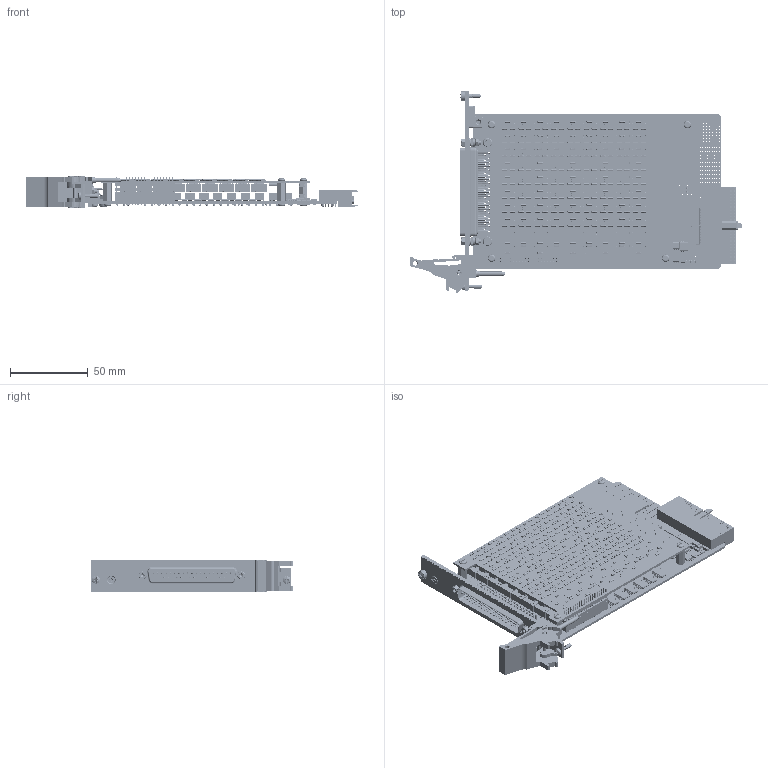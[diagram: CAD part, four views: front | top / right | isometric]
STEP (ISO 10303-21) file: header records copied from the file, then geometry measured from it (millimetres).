
FILE_DESCRIPTION (( 'STEP AP214' ), '1' );
FILE_NAME ('40-297A-032 PXI High Density Precision Resistor Module 9-Channel 2 Ohm to 26.7 kOhm 0.5 Ohm Resolution.step', '2024-02-26T12:19:35', ( '' ), ( '' ), 'SwSTEP 2.0', 'SolidWorks 2023', '' );
FILE_SCHEMA (( 'AUTOMOTIVE_DESIGN' ));
Length unit declared in the file: millimetre
Products named in the file (101): A-PC-1384-X32-# Programmable Resistor Daughter; C-RS-884 RES 2K4 0204 0.25W 0.1% 15PPM; C-CN-1453-Short Pins 2 x 15 Way Header ST M SM; C-IC-226  16 Bit Driver IC; A-PC-1383-X32 Programmable Resistor Mother; C-RS-873 RES 0204 18R 0.25W 1% 50PPM; C-CP-239  Power Line Filter; C-BK-026 Bush Front Panel Mounting; C-RS-866 RES 0204 1R8 0.25W 1% 50PPM; C-IC-489 F-RAM Semiconductor Serial-I2C FRAM Memory 512kbit 2-3.6 V 8-Pin SOIC; C-CN-107-PIN; C-FX-165 CPCI Ejector Handle; C-CP-139 CAP 4.7UF 1206 16V X7R 10%; C-RS-254 Res  0603; C-FP-399 PXI 3U 1-slot 37Way D PCB Mounting; C-FX-165 Handle Pin; C-RS-890 RES 68K 0204 0.25W 0.1% 15PPM; C-CN-073-SCREW 4-40 UNC Screwlock_5mm Hexagonal spacer; C-RS-872 RES 15R 0204 0.25W 1% 50PPM; C-RS-878 RES 430R 0204 0.25W 0.1% 15PPM; C-CN-859 D Connector Mounting Bracket; C-CN-073-NUT M2-5 Screwlock nut_C-FX-028 M2,5 Nut; C-CN-107-BODY; C-CP-130 CAP 1uF CERAMIC SMT 0603; C-CN-073 WASHER plain; C-RS-147 Res 100R 0603 1-16W 1% 100PPM; C-CP-034; C-FX-375 M3 Hex Nut_C-FX-375 M3 Nut; L-FP-399-# PXI FP Label; C-IC-598 64Mbit Flash Memory 8-Pin SOIC; C-RS-152 Res 10K 0603 1-16W 1% 300PPM; C-RS-917 RES 390K 0204 0.25W 1% 50PPM; C-FX-432 M2.5 x 6mm Slotted Screw with Vibra Fix Solution; A-PC-1384-X32 Programmable Resistor Daughter; C-RS-887 RES 16K 0204 0.25W 0.1% 15PPM; L-FP-399 PXI 3U 1SLT 37W D FP Label Assy; C-RS-876 RES 130R 0204 0.25W 0.1% 15PPM; C-FX-101 Screw, M2.5 x 6, Pan Hd, Pozi, Steel, BZP; C-CN-073-SPRING WASHER; C-RS-871 RES 10R 0204 0.25W 1% 50PPM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
Assembly tree (997 placements, depth 5):
  40-297A-032 PXI High Density Precision Resistor Module 9-Channel 2 Ohm to 26.7 kOhm 0.5 Ohm Resolution
    A-PC-1383-X32 Programmable Resistor Mother
      A-PC-1383-X32-# Programmable Resistor Mother
        C-PC-1383 Programmable Resistor Motherboard
        C-CN-1071
          C-CN-107-BODY
          C-CN-107-PIN  x8
        C-CN-1579 2 X 19 WAY HEADER ST F TH
        C-CN-1462 2 x 15 WAY HEADER ST F SM
        C-RS-190 Res 0R0 SIZE 0603 SMT
        C-CP-239  Power Line Filter  x4
        C-CP-175 CAP 22uF 1206 25V X5R 10%  x2
        C-CP-141 CAP 10UF 1206 35V X5R 10%  x7
        C-RL-260 Signal Relay Surface Mount_No Text  x87
        C-IC-226  16 Bit Driver IC  x6
        C-RS-254 Res  0603  x6
        C-SC-056 80V 250mA (DC) SOD323 Diode  x90
        C-CP-034  x22
        C-RS-152 Res 10K 0603 1-16W 1% 300PPM  x2
        C-RS-147 Res 100R 0603 1-16W 1% 100PPM
        C-CP-099 CAP 0.1uF 16V 0402 SMT  x12
        C-IC-442 VSSOP 8PIN SD
        C-IC-458 LDO VOLTAGE REGULATOR 1.2V SOT
        C-IC-546 24 BIT BUS SWITCH 56PIN TVSOP  x2
        C-IC-369 FPGA 17000 Cells 65nm Technology 1.2V 256-Pin FTBGA
        C-RS-148 Res 1K 0603 1-16W 1% 100PPM  x2
        C-RS-659 RES NW 4K7 4RES 8PINS SMT1206  x4
        C-RS-521 Res 120R (0603) 1-16W 1% 100pp
        C-SC-146 Dual Transistor SOT-14  x2
        C-MS-803 BEAD 120R 0603 2A 0R05 25%  x2
        C-CP-124 CAP 10nF CERAMIC SMT 0402  x29
        C-CP-130 CAP 1uF CERAMIC SMT 0603  x2
        C-CP-139 CAP 4.7UF 1206 16V X7R 10%  x2
        C-CN-355 Compact pci connector 3_Render
        C-IC-489 F-RAM Semiconductor Serial-I2C FRAM Memory 512kbit 2-3.6 V 8-Pin SOIC  x2
        C-IC-425 SOICN 8PIN SD
        C-IC-598 64Mbit Flash Memory 8-Pin SOIC
        C-RS-862 0204 Surface Mount  x28
        C-RS-865 RES 0204 1R 0.25W 1% 50PPM  x20
        C-RS-866 RES 0204 1R8 0.25W 1% 50PPM  x10
        C-RS-867 RES 0204 2R2 0.25W 1% 50PPM  x10
        C-RS-868 RES 0204 3R3 0.25W 1% 50PPM  x5
        C-RS-869 RES 0204 4R7 0.25W 1% 50PPM  x5
        C-RS-870 RES 0204 6R8 0.25W 1% 50PPM  x5
        C-RS-871 RES 10R 0204 0.25W 1% 50PPM  x5
        C-RS-872 RES 15R 0204 0.25W 1% 50PPM  x5
        C-RS-873 RES 0204 18R 0.25W 1% 50PPM  x5
        C-RS-874 RES 0204 33R 0.25W 1% 50PPM  x10
        C-RS-875 RES 62R 0204 0.25W 0.1% 15PPM  x8
        C-RS-876 RES 130R 0204 0.25W 0.1% 15PPM  x8
        C-RS-877 RES 240R 0204 0.25W 0.1% 15PPM  x13
        C-RS-878 RES 430R 0204 0.25W 0.1% 15PPM  x5
        C-RS-879 RES 470R 0204 0.25W 0.1% 15PPM  x8
        C-RS-880 RES 680R 0204 0.25W 0.1% 15PPM  x5
        C-RS-881 RES 910R 0204 0.25W 0.1% 15PPM  x8
        C-RS-882 RES 1K8 0204 0.25W 0.1% 15PPM  x8
        C-RS-884 RES 2K4 0204 0.25W 0.1% 15PPM  x8
        C-RS-885 RES 3K9 0204 0.25W 0.1% 15PPM  x8
        C-RS-911 RES 6K8 0204 0.25W 0.1% 15PPM  x8
        C-RS-886 RES 0204  x4
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Bounding box: 213.7 x 129.63 x 20 mm (x, y, z)
Volume: 124311.1 mm3; surface area: 166631.2 mm2
Topology: 999 solids, 1026 shells, 54388 faces, 133217 edges, 83642 vertices
Faces by surface type: plane 33397, cylinder 15416, torus 2565, sphere 1452, cone 1397, bspline 161
Entity records: 656734 total; most frequent: DIRECTION 89580, CARTESIAN_POINT 88690, ORIENTED_EDGE 81408, EDGE_CURVE 40706, AXIS2_PLACEMENT_3D 32497, VERTEX_POINT 26069, LINE 24586, VECTOR 24586
